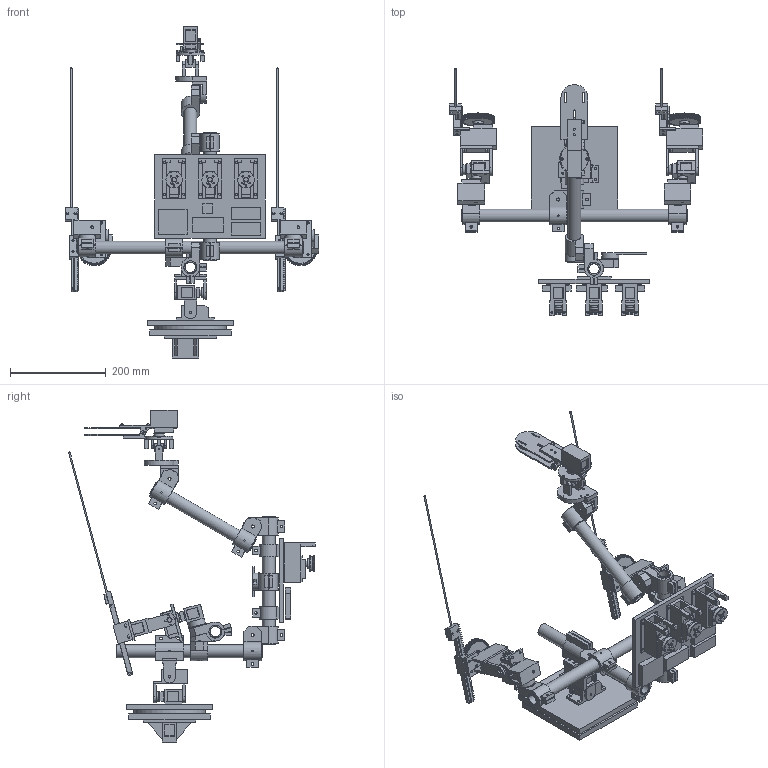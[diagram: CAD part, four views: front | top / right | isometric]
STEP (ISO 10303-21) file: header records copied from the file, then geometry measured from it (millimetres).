
FILE_DESCRIPTION(('Open CASCADE Model'),'2;1');
FILE_NAME('Open CASCADE Shape Model','2026-11-16T09:26:43',('Author'),( 'Open CASCADE'),'Open CASCADE STEP processor 7.9','Open CASCADE 7.9' ,'Unknown');
FILE_SCHEMA(('AUTOMOTIVE_DESIGN { 1 0 10303 214 1 1 1 1 }'));
Length unit declared in the file: millimetre
Products named in the file (78): cfad6b98-e19f-11f1-a018-4f28e277126d; tripod_base; servo_yaw; deck_fixed; lazy_susan; yaw_hub; deck_turntable; lean_bracket_L; servo_lean_roll; lean_roll_yoke; servo_lean_pitch; lean_pitch_yoke; carriage; pipe_boom; knuckle_1; knuckle_2; pipe_mast; knuckle_3; knuckle_4; pipe_entry; knuckle_5; neck_leg; neck_fork; neck_cross; neck_top; head_frame2; servo_head_twist; paddle_upper; jaw_lever; paddle_lower; knuckle_6; knuckle_7; pipe_outrigger; knuckle_arm_r; arm_base_r; servo_pan_r; arm_bracket_L_r; servo_tilt_r; arm_tilt_yoke_r; arm_slide_stage_r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
Assembly tree (77 placements, depth 2):
  cfad6b98-e19f-11f1-a018-4f28e277126d
    tripod_base
    servo_yaw
    deck_fixed
    lazy_susan
    yaw_hub
    deck_turntable
    lean_bracket_L
    servo_lean_roll
    lean_roll_yoke
    servo_lean_pitch
    lean_pitch_yoke
    carriage
    pipe_boom
    knuckle_1
    knuckle_2
    pipe_mast
    knuckle_3
    knuckle_4
    pipe_entry
    knuckle_5
    neck_leg
    neck_fork
    neck_cross
    neck_top
    head_frame2
    servo_head_twist
    paddle_upper
    jaw_lever
    paddle_lower
    knuckle_6
    knuckle_7
    pipe_outrigger
    knuckle_arm_r
    arm_base_r
    servo_pan_r
    arm_bracket_L_r
    servo_tilt_r
    arm_tilt_yoke_r
    arm_slide_stage_r
    servo_ext_r
    arm_rack_guide_r
    arm_pinion_r
    arm_rack_r
    arm_rod_cap_r
    arm_rod_r
    knuckle_arm_l
    arm_base_l
    servo_pan_l
    arm_bracket_L_l
    servo_tilt_l
    arm_tilt_yoke_l
    arm_slide_stage_l
    servo_ext_l
    arm_rack_guide_l
    arm_pinion_l
    arm_rack_l
    arm_rod_cap_l
    arm_rod_l
    pipe_saddle_1
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Bounding box: 528.27 x 514.91 x 692.35 mm (x, y, z)
Volume: 3560349.4 mm3; surface area: 1234095.9 mm2
Topology: 77 solids, 77 shells, 6102 faces, 16781 edges, 11061 vertices
Faces by surface type: plane 4135, bspline 1260, cylinder 698, cone 9
Full cylindrical faces by diameter (mm): 1.6 x15, 1.8 x1, 2.6 x7, 3 x13, 3.2 x1, 3.3 x9, 3.4 x8, 4.2 x23, 4.4 x96, 4.6 x21, 5 x4, 5.3 x10, 5.4 x28, 6.5 x21, 6.8 x1, 7.2 x1, 7.8 x8, 13 x13, 21 x13, 21.5 x4, 26.7 x4, 34 x4, 36 x4, 50 x1, 58 x1, 70 x1, 104 x1, 150 x1
Entity records: 414129 total; most frequent: CARTESIAN_POINT 93907, DIRECTION 52147, LINE 38577, VECTOR 38577, ORIENTED_EDGE 33562, PCURVE 33562, DEFINITIONAL_REPRESENTATION 33562, EDGE_CURVE 16781
